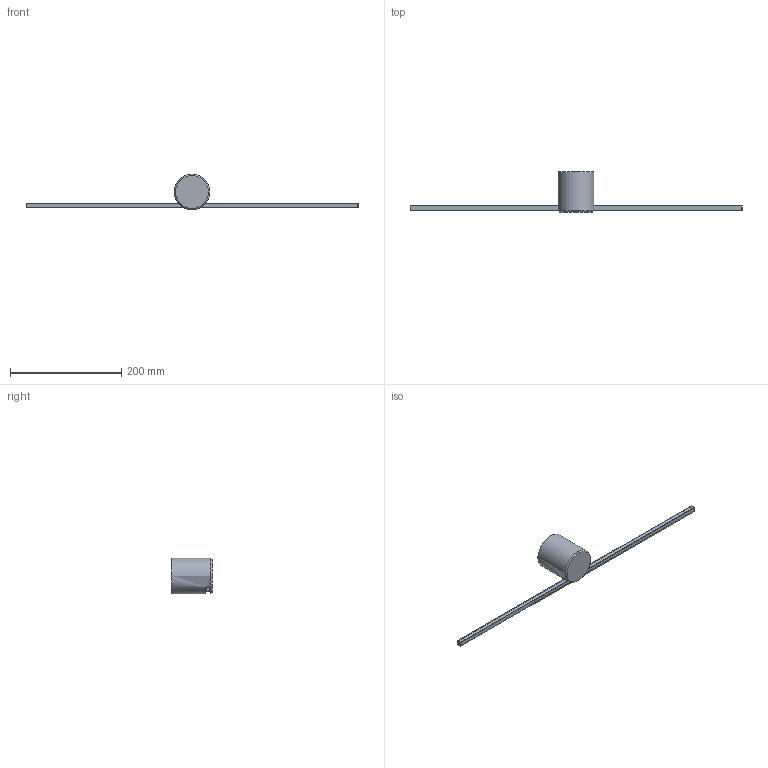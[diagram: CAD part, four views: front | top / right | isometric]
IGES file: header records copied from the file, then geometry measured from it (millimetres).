
Start section: SolidWorks IGES file using analytic representation for surfaces
Global section: file name: X:\PRODUKT\Modele 3D_WWW\_KOLEKCJE WWW\PIN-LED\PIN-LED-S-8127\PIN-LED-S-8127.IGS; native system: SolidWorks 2021; preprocessor: SolidWorks 2021; author: gabriela.tworek; date: 221219.105429; units: millimetre
Bounding box: 597.2 x 72 x 64 mm (x, y, z)
Surface area: 66368.5 mm2 (no closed solid volume)
Topology: 0 solids, 0 shells, 55 faces, 236 edges, 234 vertices
Faces by surface type: bspline 53, revolution 2
